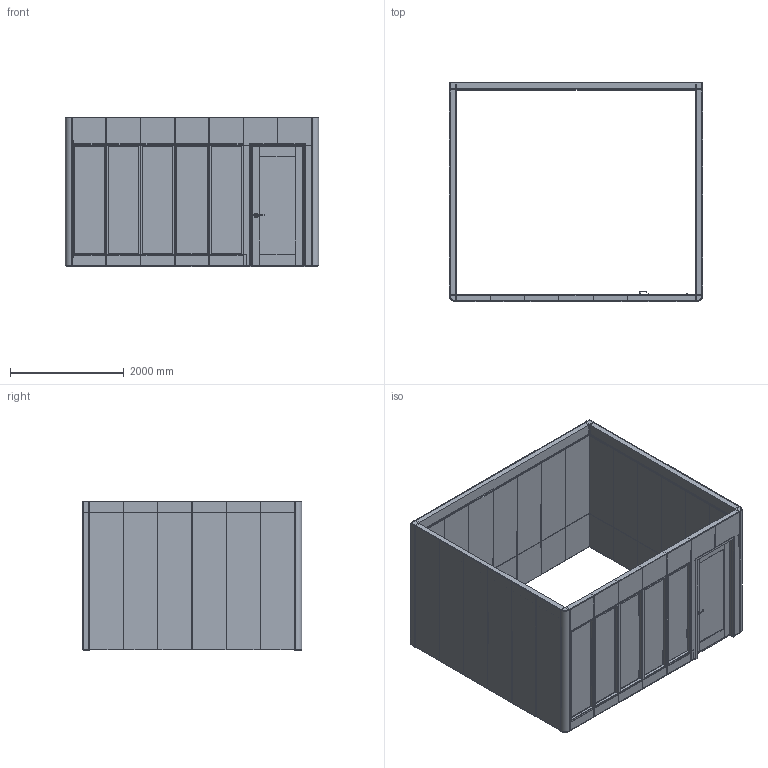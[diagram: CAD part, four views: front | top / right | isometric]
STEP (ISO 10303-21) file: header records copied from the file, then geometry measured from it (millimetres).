
FILE_DESCRIPTION(/* description */ (''),/* implementation_level */ '2;1');
FILE_NAME(/* name */ 'Share Two ',/* time_stamp */ '2026-06-15T16:38:41+12:00',/* author */ (''),/* organization */ (''),/* preprocessor_version */ 'ST-DEVELOPER v19.2',/* originating_system */ 'Rhino 8.31',/* authorisation */ '');
FILE_SCHEMA (('CONFIG_CONTROL_DESIGN'));
Length unit declared in the file: millimetre
Products named in the file (12): Document; 600x1656mm Internal Linings - Autex; 600x740mm Internal Linings - Autex; 600x2400mm Internal Linings - MDF; 600x740mm Internal Linings Short - Autex; 600x1656mm Internal Linings Short - Autex; DoorPanel_1200_2600_92_150_2150; 600x2600mm External Lining; 92x2600mm External Corner Lining; 18mm Packer; 600x2600mm External Door Lining; 600x2600mm Internal Door Lining
Bounding box: 4452 x 3854 x 2618 mm (x, y, z)
Volume: 1941838861.4 mm3; surface area: 266024826.9 mm2
Topology: 181 solids, 185 shells, 1256 faces, 2693 edges, 1807 vertices
Faces by surface type: plane 1226, cylinder 22, bspline 8
Entity records: 26659 total; most frequent: CARTESIAN_POINT 7481, ORIENTED_EDGE 4576, EDGE_CURVE 2306, B_SPLINE_CURVE_WITH_KNOTS 2179, VERTEX_POINT 1548, DIRECTION 1332, AXIS2_PLACEMENT_3D 1194, EDGE_LOOP 1072
